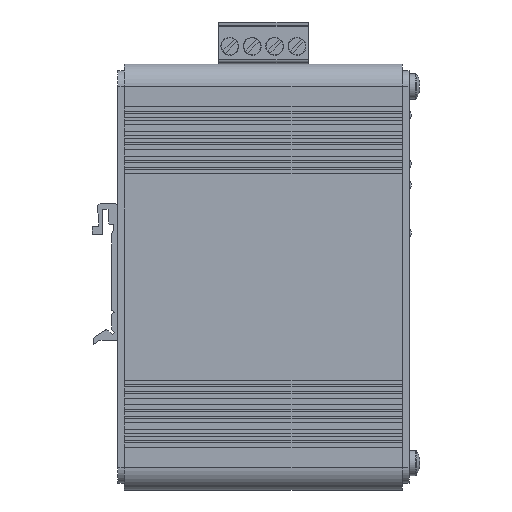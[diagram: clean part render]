
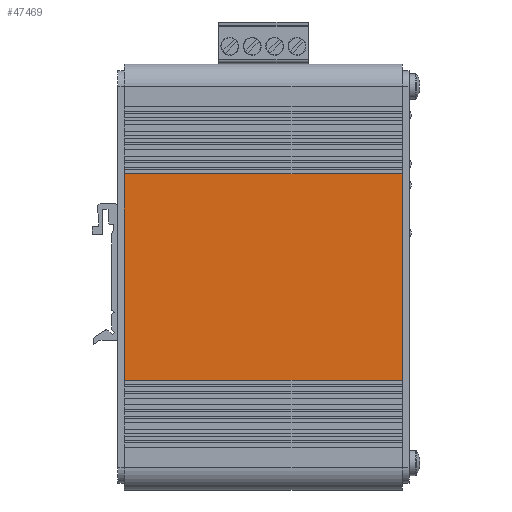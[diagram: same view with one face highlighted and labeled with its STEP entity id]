
A CAD part, left-side view. The second image highlights one B-rep face of the part: STEP entity #47469.
In plain terms, the highlighted planar face has unit normal (-1, 0, 0).
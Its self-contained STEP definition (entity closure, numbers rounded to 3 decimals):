
#2315=PLANE('',#51112);
#7412=LINE('',#77018,#12814);
#7591=LINE('',#77396,#12993);
#7719=LINE('',#77656,#13121);
#7720=LINE('',#77657,#13122);
#12814=VECTOR('',#62925,10.);
#12993=VECTOR('',#63212,10.);
#13121=VECTOR('',#63422,10.);
#13122=VECTOR('',#63423,10.);
#16062=FACE_OUTER_BOUND('',#18623,.T.);
#18623=EDGE_LOOP('',(#43429,#43430,#43431,#43432));
#23791=VERTEX_POINT('',#77014);
#23792=VERTEX_POINT('',#77016);
#23935=VERTEX_POINT('',#77392);
#23937=VERTEX_POINT('',#77395);
#30283=EDGE_CURVE('',#23791,#23792,#7412,.T.);
#30462=EDGE_CURVE('',#23937,#23935,#7591,.T.);
#30590=EDGE_CURVE('',#23792,#23937,#7719,.T.);
#30591=EDGE_CURVE('',#23935,#23791,#7720,.T.);
#43429=ORIENTED_EDGE('',*,*,#30283,.T.);
#43430=ORIENTED_EDGE('',*,*,#30590,.T.);
#43431=ORIENTED_EDGE('',*,*,#30462,.T.);
#43432=ORIENTED_EDGE('',*,*,#30591,.T.);
#47469=ADVANCED_FACE('',(#16062),#2315,.T.);
#51112=AXIS2_PLACEMENT_3D('',#77655,#63420,#63421);
#62925=DIRECTION('',(0.,-1.,0.));
#63212=DIRECTION('',(0.,1.,0.));
#63420=DIRECTION('center_axis',(-1.,0.,0.));
#63421=DIRECTION('ref_axis',(0.,0.,1.));
#63422=DIRECTION('',(0.,0.,1.));
#63423=DIRECTION('',(0.,0.,-1.));
#77014=CARTESIAN_POINT('',(0.,63.5,24.5));
#77016=CARTESIAN_POINT('',(0.,1.5,24.5));
#77018=CARTESIAN_POINT('',(0.,0.75,24.5));
#77392=CARTESIAN_POINT('',(0.,63.5,70.5));
#77395=CARTESIAN_POINT('',(0.,1.5,70.5));
#77396=CARTESIAN_POINT('',(0.,0.75,70.5));
#77655=CARTESIAN_POINT('Origin',(0.,0.,5.));
#77656=CARTESIAN_POINT('',(0.,1.5,26.25));
#77657=CARTESIAN_POINT('',(0.,63.5,26.25));
